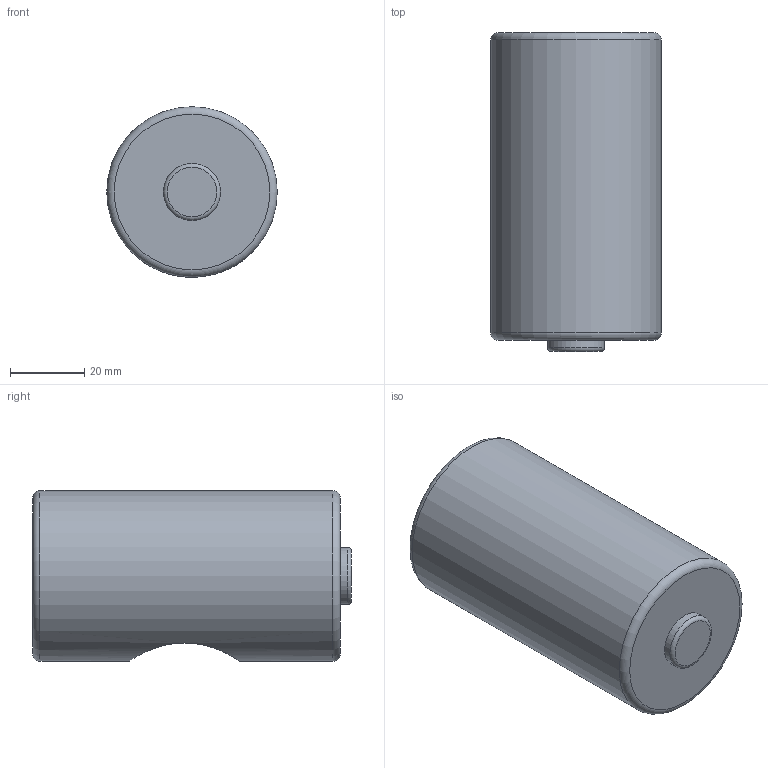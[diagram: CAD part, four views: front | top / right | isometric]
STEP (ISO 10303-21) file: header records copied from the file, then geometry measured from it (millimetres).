
FILE_DESCRIPTION(/* description */ (''),/* implementation_level */ '2;1');
FILE_NAME(/* name */ 'Barrel_v2_NO-spring_NO-pin v2.step',/* time_stamp */ '2022-11-02T12:54:53+03:00',/* author */ (''),/* organization */ (''),/* preprocessor_version */ 'ST-DEVELOPER v19.2',/* originating_system */ 'Autodesk Translation Framework v11.17.0.187',/* authorisation */ '');
FILE_SCHEMA (('AUTOMOTIVE_DESIGN { 1 0 10303 214 3 1 1 }'));
Length unit declared in the file: millimetre
Products named in the file (1): Barrel_v2_NO-spring_NO-pin
Bounding box: 46 x 86 x 46 mm (x, y, z)
Volume: 127679.3 mm3; surface area: 17416.5 mm2
Topology: 1 solids, 1 shells, 29 faces, 71 edges, 47 vertices
Faces by surface type: cylinder 17, plane 5, torus 4, bspline 3
Full cylindrical faces by diameter (mm): 15.4 x1, 17.719 x5, 20 x1, 20.492 x5, 46 x1
Entity records: 2899 total; most frequent: CARTESIAN_POINT 2236, ORIENTED_EDGE 142, DIRECTION 110, EDGE_CURVE 71, VERTEX_POINT 47, AXIS2_PLACEMENT_3D 47, B_SPLINE_CURVE_WITH_KNOTS 35, EDGE_LOOP 32
